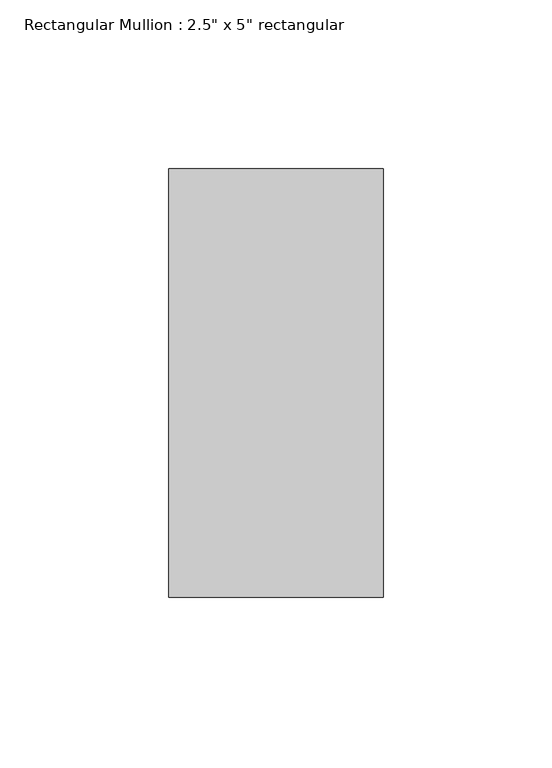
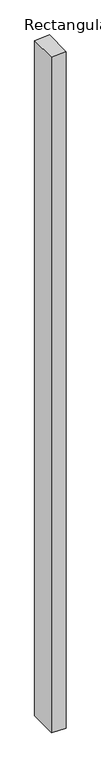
"""IFC4 building model written with IfcOpenShell, lengths in millimetres: member geometry."""

from ifc_helpers import new_model, si_unit, frame, origin, place, context, project, spatial, polyline, outline, extrude, source, transform, mapped, element, save


def member_24a7c0ea(model_context):
    return source(origin(), model_context, "Body", "SweptSolid", [
        extrude(outline(polyline([(0.0, 0.0), (-4.3182991, -63.5), (-3104.3479712, -63.5), (-3106.8560132, 0.0), (0.0, 0.0)])), frame((0.0, -63.5, 0.0), z_axis=(0.0, 1.0, 0.0), x_axis=(0.0, 0.0, 1.0)), (0.0, 0.0, 1.0), 127.0),
    ])


if __name__ == "__main__":
    model = new_model("IFC4")
    model_context = context("Model", 3, world=origin())
    ifc_project = project(units=[si_unit("LENGTHUNIT", "METRE", prefix="MILLI")], contexts=[model_context])
    site = spatial("IfcSite", under=ifc_project)
    building = spatial("IfcBuilding", under=site)
    placement = place(None, origin())
    member_shape = member_24a7c0ea(model_context)
    element("IfcMember", 1, ObjectType="Rectangular Mullion : 2.5\" x 5\" rectangular", at=placement, inside=building, context=model_context, shape_type="MappedRepresentation", body=[
        mapped(member_shape, transform((0.0, 0.0, 0.0), x_axis=(1.0, 0.0, 0.0), y_axis=(0.0, 1.0, 0.0), z_axis=(0.0, 0.0, 1.0))),
    ])
    save(model, "model.ifc")
